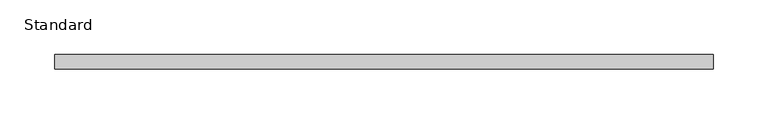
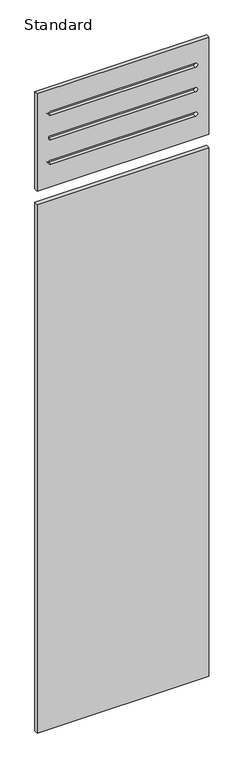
"""IFC4 building model written with IfcOpenShell, lengths in millimetres: furniture geometry, X_Partition-Compact Laminate-Duracube-Door : Standard."""

from ifc_helpers import new_model, si_unit, point, frame, frame_2d, origin, place, context, project, spatial, polyline, circle_curve, trimmed, segment, composite_curve, outline, extrude, source, transform, mapped, element, save


def standard_bae3c756(model_context):
    return source(origin(), model_context, "Body", "SweptSolid", [
        extrude(outline(polyline([(2398.0, 344.7003264), (2398.0, -255.2996736), (2040.0, -255.2996736), (2040.0, 344.7003264), (2398.0, 344.7003264)]), holes=[composite_curve([segment(trimmed(circle_curve(frame_2d((2130.0, 297.2003264)), 7.5), [point((2137.5, 297.2003264))], [point((2122.5, 297.2003264))], True, "CARTESIAN"), True, "CONTINUOUS"), segment(polyline([(2122.5, 297.2003264), (2122.5, -207.7996736)]), True, "CONTINUOUS"), segment(trimmed(circle_curve(frame_2d((2130.0, -207.7996736)), 7.5), [point((2122.5, -207.7996736))], [point((2137.5, -207.7996736))], True, "CARTESIAN"), True, "CONTINUOUS"), segment(polyline([(2137.5, -207.7996736), (2137.5, 297.2003264)]), True, "CONTINUOUS")], self_intersect=False), composite_curve([segment(trimmed(circle_curve(frame_2d((2220.0, 297.2003264)), 7.5), [point((2227.5, 297.2003264))], [point((2212.5, 297.2003264))], True, "CARTESIAN"), True, "CONTINUOUS"), segment(polyline([(2212.5, 297.2003264), (2212.5, -207.7996736)]), True, "CONTINUOUS"), segment(trimmed(circle_curve(frame_2d((2220.0, -207.7996736)), 7.5), [point((2212.5, -207.7996736))], [point((2227.5, -207.7996736))], True, "CARTESIAN"), True, "CONTINUOUS"), segment(polyline([(2227.5, -207.7996736), (2227.5, 297.2003264)]), True, "CONTINUOUS")], self_intersect=False), composite_curve([segment(trimmed(circle_curve(frame_2d((2310.0, 297.2003264)), 7.5), [point((2317.5, 297.2003264))], [point((2302.5, 297.2003264))], True, "CARTESIAN"), True, "CONTINUOUS"), segment(polyline([(2302.5, 297.2003264), (2302.5, -207.7996736)]), True, "CONTINUOUS"), segment(trimmed(circle_curve(frame_2d((2310.0, -207.7996736)), 7.5), [point((2302.5, -207.7996736))], [point((2317.5, -207.7996736))], True, "CARTESIAN"), True, "CONTINUOUS"), segment(polyline([(2317.5, -207.7996736), (2317.5, 297.2003264)]), True, "CONTINUOUS")], self_intersect=False)]), frame((0.0, -13.0, 0.0), z_axis=(0.0, 1.0, 0.0), x_axis=(0.0, 0.0, 1.0)), (0.0, 0.0, 1.0), 13.0),
        extrude(outline(polyline([(344.7003264, 0.0), (344.7003264, -13.0), (-255.2996736, -13.0), (-255.2996736, 0.0), (344.7003264, 0.0)])), frame((0.0, 0.0, 40.0), z_axis=(0.0, 0.0, 1.0), x_axis=(1.0, 0.0, 0.0)), (0.0, 0.0, 1.0), 1950.0),
    ])


if __name__ == "__main__":
    model = new_model("IFC4")
    model_context = context("Model", 3, world=origin())
    ifc_project = project(units=[si_unit("LENGTHUNIT", "METRE", prefix="MILLI")], contexts=[model_context])
    site = spatial("IfcSite", under=ifc_project)
    building = spatial("IfcBuilding", under=site)
    placement = place(None, origin())
    standard_shape = standard_bae3c756(model_context)
    element("IfcFurniture", 1, ObjectType="X_Partition-Compact Laminate-Duracube-Door : Standard", at=placement, inside=building, context=model_context, shape_type="MappedRepresentation", body=[
        mapped(standard_shape, transform((0.0, 0.0, 0.0), x_axis=(1.0, 0.0, 0.0), y_axis=(0.0, 1.0, 0.0), z_axis=(0.0, 0.0, 1.0))),
    ])
    save(model, "model.ifc")
